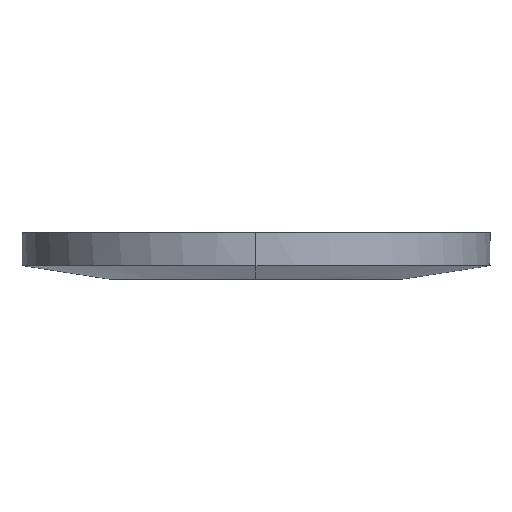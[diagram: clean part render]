
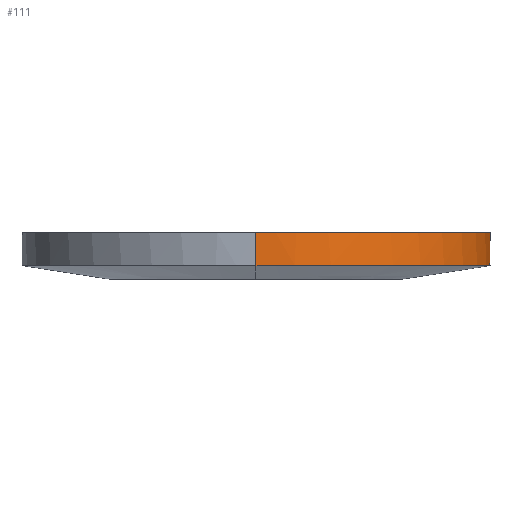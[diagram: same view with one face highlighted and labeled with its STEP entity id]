
A CAD part, left-side view. The second image highlights one B-rep face of the part: STEP entity #111.
In plain terms, the highlighted free-form (B-spline) face has degree [1, 2] with [2, 9] control points.
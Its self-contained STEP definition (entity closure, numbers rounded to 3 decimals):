
#111=ADVANCED_FACE('',(#119),#391,.T.);
#119=FACE_OUTER_BOUND('',#127,.T.);
#127=EDGE_LOOP('',(#141,#142,#143,#144));
#141=ORIENTED_EDGE('',*,*,#285,.T.);
#142=ORIENTED_EDGE('',*,*,#286,.T.);
#143=ORIENTED_EDGE('',*,*,#287,.T.);
#144=ORIENTED_EDGE('',*,*,#288,.T.);
#169=(
BOUNDED_CURVE()
B_SPLINE_CURVE(2,(#568,#569,#570,#571,#572),.UNSPECIFIED.,.F.,.F.)
B_SPLINE_CURVE_WITH_KNOTS((3,2,3),(1.,2.571,4.142),
 .UNSPECIFIED.)
CURVE()
GEOMETRIC_REPRESENTATION_ITEM()
RATIONAL_B_SPLINE_CURVE((1.,0.707,1.,0.707,1.))
REPRESENTATION_ITEM('')
);
#170=(
BOUNDED_CURVE()
B_SPLINE_CURVE(2,(#579,#580,#581,#582,#583),.UNSPECIFIED.,.F.,.F.)
B_SPLINE_CURVE_WITH_KNOTS((3,2,3),(5.142,6.712,8.283),
 .UNSPECIFIED.)
CURVE()
GEOMETRIC_REPRESENTATION_ITEM()
RATIONAL_B_SPLINE_CURVE((1.,0.707,1.,0.707,1.))
REPRESENTATION_ITEM('')
);
#189=PCURVE('',#391,#221);
#190=PCURVE('',#391,#222);
#191=PCURVE('',#391,#223);
#192=PCURVE('',#391,#224);
#221=DEFINITIONAL_REPRESENTATION('',(#322),#809);
#222=DEFINITIONAL_REPRESENTATION('',(#323),#809);
#223=DEFINITIONAL_REPRESENTATION('',(#325),#809);
#224=DEFINITIONAL_REPRESENTATION('',(#326),#809);
#253=SURFACE_CURVE('',#321,(#189),.PCURVE_S1.);
#254=SURFACE_CURVE('',#169,(#190),.PCURVE_S1.);
#255=SURFACE_CURVE('',#324,(#191),.PCURVE_S1.);
#256=SURFACE_CURVE('',#170,(#192),.PCURVE_S1.);
#285=EDGE_CURVE('',#365,#366,#253,.T.);
#286=EDGE_CURVE('',#366,#367,#254,.T.);
#287=EDGE_CURVE('',#367,#368,#255,.T.);
#288=EDGE_CURVE('',#368,#365,#256,.T.);
#321=B_SPLINE_CURVE_WITH_KNOTS('',1,(#564,#565),.UNSPECIFIED.,.F.,.F.,(2,
2),(0.,1.),.UNSPECIFIED.);
#322=B_SPLINE_CURVE_WITH_KNOTS('',1,(#566,#567),.UNSPECIFIED.,.F.,.F.,(2,
2),(0.,1.),.UNSPECIFIED.);
#323=B_SPLINE_CURVE_WITH_KNOTS('',1,(#573,#574),.UNSPECIFIED.,.F.,.F.,(2,
2),(1.,4.142),.UNSPECIFIED.);
#324=B_SPLINE_CURVE_WITH_KNOTS('',1,(#575,#576),.UNSPECIFIED.,.F.,.F.,(2,
2),(4.142,5.142),.UNSPECIFIED.);
#325=B_SPLINE_CURVE_WITH_KNOTS('',1,(#577,#578),.UNSPECIFIED.,.F.,.F.,(2,
2),(4.142,5.142),.UNSPECIFIED.);
#326=B_SPLINE_CURVE_WITH_KNOTS('',1,(#584,#585),.UNSPECIFIED.,.F.,.F.,(2,
2),(5.142,8.283),.UNSPECIFIED.);
#365=VERTEX_POINT('',#560);
#366=VERTEX_POINT('',#561);
#367=VERTEX_POINT('',#562);
#368=VERTEX_POINT('',#563);
#391=(
BOUNDED_SURFACE()
B_SPLINE_SURFACE(1,2,((#542,#543,#544,#545,#546,#547,#548,#549,#550),(#551,
#552,#553,#554,#555,#556,#557,#558,#559)),.UNSPECIFIED.,.F.,.F.,.F.)
B_SPLINE_SURFACE_WITH_KNOTS((2,2),(3,2,2,2,3),(0.,1.),(0.,1.571,
3.142,4.712,6.283),.UNSPECIFIED.)
GEOMETRIC_REPRESENTATION_ITEM()
RATIONAL_B_SPLINE_SURFACE(((1.,0.707,1.,0.707,1.,
0.707,1.,0.707,1.),(1.,0.707,1.,0.707,
1.,0.707,1.,0.707,1.)))
REPRESENTATION_ITEM('')
SURFACE()
);
#542=CARTESIAN_POINT('',(-0.6,4.25,0.));
#543=CARTESIAN_POINT('',(-0.6,4.25,-4.25));
#544=CARTESIAN_POINT('',(-0.6,0.,-4.25));
#545=CARTESIAN_POINT('',(-0.6,-4.25,-4.25));
#546=CARTESIAN_POINT('',(-0.6,-4.25,0.));
#547=CARTESIAN_POINT('',(-0.6,-4.25,4.25));
#548=CARTESIAN_POINT('',(-0.6,0.,4.25));
#549=CARTESIAN_POINT('',(-0.6,4.25,4.25));
#550=CARTESIAN_POINT('',(-0.6,4.25,0.));
#551=CARTESIAN_POINT('',(0.,4.25,0.));
#552=CARTESIAN_POINT('',(0.,4.25,-4.25));
#553=CARTESIAN_POINT('',(0.,0.,-4.25));
#554=CARTESIAN_POINT('',(0.,-4.25,-4.25));
#555=CARTESIAN_POINT('',(0.,-4.25,0.));
#556=CARTESIAN_POINT('',(0.,-4.25,4.25));
#557=CARTESIAN_POINT('',(0.,0.,4.25));
#558=CARTESIAN_POINT('',(0.,4.25,4.25));
#559=CARTESIAN_POINT('',(0.,4.25,0.));
#560=CARTESIAN_POINT('',(0.,4.25,0.));
#561=CARTESIAN_POINT('',(-0.6,4.25,0.));
#562=CARTESIAN_POINT('',(-0.6,-4.25,0.));
#563=CARTESIAN_POINT('',(0.,-4.25,0.));
#564=CARTESIAN_POINT('',(0.,4.25,0.));
#565=CARTESIAN_POINT('',(-0.6,4.25,0.));
#566=CARTESIAN_POINT('',(1.,6.283));
#567=CARTESIAN_POINT('',(0.,6.283));
#568=CARTESIAN_POINT('',(-0.6,4.25,0.));
#569=CARTESIAN_POINT('',(-0.6,4.25,4.25));
#570=CARTESIAN_POINT('',(-0.6,0.,4.25));
#571=CARTESIAN_POINT('',(-0.6,-4.25,4.25));
#572=CARTESIAN_POINT('',(-0.6,-4.25,0.));
#573=CARTESIAN_POINT('',(0.,6.283));
#574=CARTESIAN_POINT('',(0.,3.142));
#575=CARTESIAN_POINT('',(-0.6,-4.25,0.));
#576=CARTESIAN_POINT('',(0.,-4.25,0.));
#577=CARTESIAN_POINT('',(0.,3.142));
#578=CARTESIAN_POINT('',(1.,3.142));
#579=CARTESIAN_POINT('',(0.,-4.25,0.));
#580=CARTESIAN_POINT('',(0.,-4.25,4.25));
#581=CARTESIAN_POINT('',(0.,0.,4.25));
#582=CARTESIAN_POINT('',(0.,4.25,4.25));
#583=CARTESIAN_POINT('',(0.,4.25,0.));
#584=CARTESIAN_POINT('',(1.,3.142));
#585=CARTESIAN_POINT('',(1.,6.283));
#809=(
GEOMETRIC_REPRESENTATION_CONTEXT(2)
PARAMETRIC_REPRESENTATION_CONTEXT()
REPRESENTATION_CONTEXT('pspace','')
);
